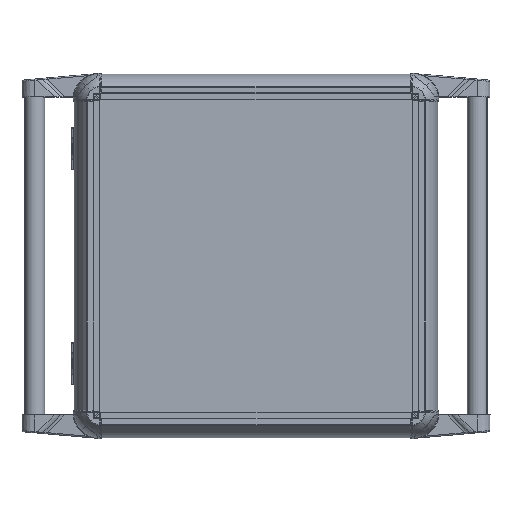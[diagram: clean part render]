
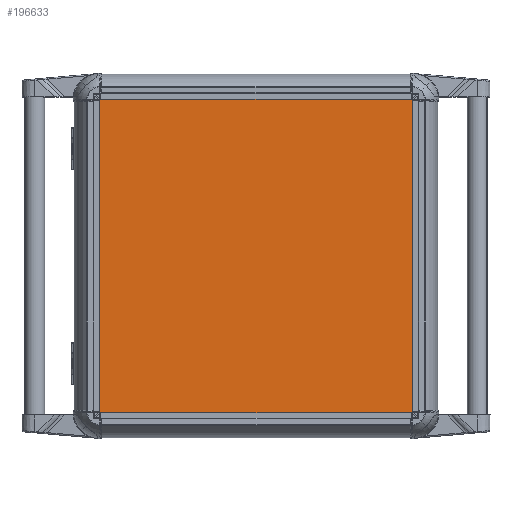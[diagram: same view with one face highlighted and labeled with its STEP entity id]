
A CAD part, top view. The second image highlights one B-rep face of the part: STEP entity #196633.
In plain terms, the highlighted planar face has unit normal (0, 0, 1).
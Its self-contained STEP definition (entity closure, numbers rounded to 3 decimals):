
#1274 = CARTESIAN_POINT ( 'NONE',  ( 150., -150., 2. ) ) ;
#6005 = AXIS2_PLACEMENT_3D ( 'NONE', #184063, #30575, #111383 ) ;
#17071 = ORIENTED_EDGE ( 'NONE', *, *, #177102, .T. ) ;
#17545 = EDGE_CURVE ( 'NONE', #117847, #146847, #164052, .T. ) ;
#23511 = CARTESIAN_POINT ( 'NONE',  ( 150., 150., 2. ) ) ;
#30575 = DIRECTION ( 'NONE',  ( 0., 0., 1. ) ) ;
#47404 = VERTEX_POINT ( 'NONE', #137063 ) ;
#47455 = FACE_OUTER_BOUND ( 'NONE', #116751, .T. ) ;
#60714 = CARTESIAN_POINT ( 'NONE',  ( 150., 150., 2. ) ) ;
#68704 = VECTOR ( 'NONE', #71380, 1000. ) ;
#71380 = DIRECTION ( 'NONE',  ( 1., 0., 0. ) ) ;
#75687 = CARTESIAN_POINT ( 'NONE',  ( -150., 150., 2. ) ) ;
#82586 = VERTEX_POINT ( 'NONE', #1274 ) ;
#87355 = EDGE_CURVE ( 'NONE', #82586, #117847, #129033, .T. ) ;
#104986 = VECTOR ( 'NONE', #112026, 1000. ) ;
#107442 = EDGE_CURVE ( 'NONE', #47404, #82586, #207869, .T. ) ;
#111383 = DIRECTION ( 'NONE',  ( 1., 0., 0. ) ) ;
#112026 = DIRECTION ( 'NONE',  ( 0., -1., 0. ) ) ;
#115784 = PLANE ( 'NONE',  #6005 ) ;
#116751 = EDGE_LOOP ( 'NONE', ( #147147, #167403, #17071, #169097 ) ) ;
#117847 = VERTEX_POINT ( 'NONE', #23511 ) ;
#129033 = LINE ( 'NONE', #60714, #189690 ) ;
#137063 = CARTESIAN_POINT ( 'NONE',  ( -150., -150., 2. ) ) ;
#137461 = CARTESIAN_POINT ( 'NONE',  ( -150., -150., 2. ) ) ;
#138038 = VECTOR ( 'NONE', #145038, 1000. ) ;
#145038 = DIRECTION ( 'NONE',  ( -1., 0., 0. ) ) ;
#146847 = VERTEX_POINT ( 'NONE', #154542 ) ;
#147147 = ORIENTED_EDGE ( 'NONE', *, *, #87355, .T. ) ;
#154542 = CARTESIAN_POINT ( 'NONE',  ( -150., 150., 2. ) ) ;
#164052 = LINE ( 'NONE', #75687, #138038 ) ;
#165760 = LINE ( 'NONE', #199303, #104986 ) ;
#167403 = ORIENTED_EDGE ( 'NONE', *, *, #17545, .T. ) ;
#169097 = ORIENTED_EDGE ( 'NONE', *, *, #107442, .T. ) ;
#177102 = EDGE_CURVE ( 'NONE', #146847, #47404, #165760, .T. ) ;
#180495 = DIRECTION ( 'NONE',  ( 0., 1., 0. ) ) ;
#184063 = CARTESIAN_POINT ( 'NONE',  ( 0., 0., 2. ) ) ;
#189690 = VECTOR ( 'NONE', #180495, 1000. ) ;
#196633 = ADVANCED_FACE ( 'NONE', ( #47455 ), #115784, .T. ) ;
#199303 = CARTESIAN_POINT ( 'NONE',  ( -150., 150., 2. ) ) ;
#207869 = LINE ( 'NONE', #137461, #68704 ) ;
